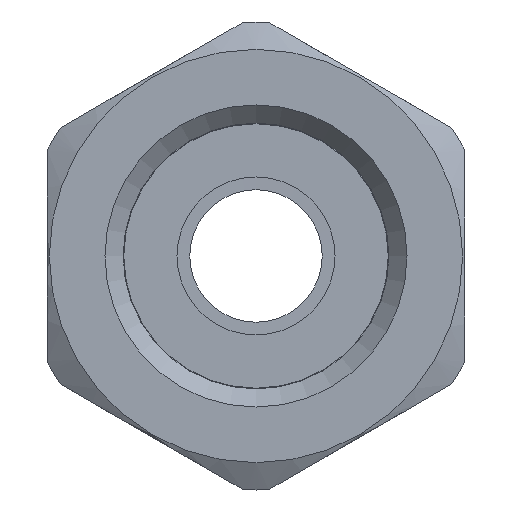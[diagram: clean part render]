
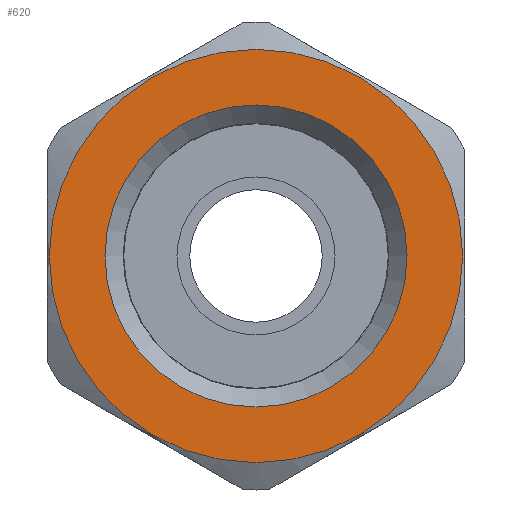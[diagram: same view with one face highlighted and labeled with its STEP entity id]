
A CAD part, front view. The second image highlights one B-rep face of the part: STEP entity #620.
In plain terms, the highlighted planar face has unit normal (0, -1, 0).
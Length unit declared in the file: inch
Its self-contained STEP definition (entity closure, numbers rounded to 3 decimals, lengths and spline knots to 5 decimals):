
#50=FACE_BOUND('',#124,.T.);
#59=PLANE('',#699);
#83=FACE_OUTER_BOUND('',#123,.T.);
#123=EDGE_LOOP('',(#483));
#124=EDGE_LOOP('',(#484));
#227=CIRCLE('',#698,0.2485);
#228=CIRCLE('',#700,0.34);
#281=VERTEX_POINT('',#1035);
#282=VERTEX_POINT('',#1039);
#356=EDGE_CURVE('',#281,#281,#227,.T.);
#357=EDGE_CURVE('',#282,#282,#228,.T.);
#483=ORIENTED_EDGE('',*,*,#357,.F.);
#484=ORIENTED_EDGE('',*,*,#356,.F.);
#620=ADVANCED_FACE('',(#83,#50),#59,.T.);
#698=AXIS2_PLACEMENT_3D('',#1037,#842,#843);
#699=AXIS2_PLACEMENT_3D('',#1038,#844,#845);
#700=AXIS2_PLACEMENT_3D('',#1040,#846,#847);
#842=DIRECTION('center_axis',(0.,-1.,0.));
#843=DIRECTION('ref_axis',(0.,0.,1.));
#844=DIRECTION('center_axis',(0.,-1.,0.));
#845=DIRECTION('ref_axis',(0.,0.,-1.));
#846=DIRECTION('center_axis',(0.,1.,0.));
#847=DIRECTION('ref_axis',(0.,0.,1.));
#1035=CARTESIAN_POINT('',(0.,-0.687,-0.2485));
#1037=CARTESIAN_POINT('Origin',(0.,-0.687,0.));
#1038=CARTESIAN_POINT('Origin',(0.,-0.687,-0.2185));
#1039=CARTESIAN_POINT('',(0.,-0.687,-0.34));
#1040=CARTESIAN_POINT('Origin',(0.,-0.687,0.));
